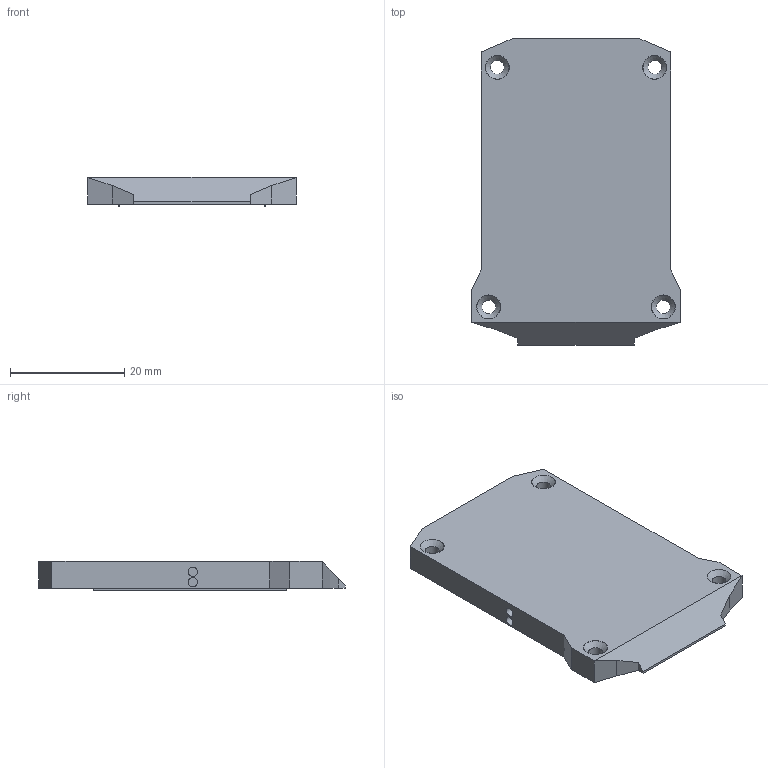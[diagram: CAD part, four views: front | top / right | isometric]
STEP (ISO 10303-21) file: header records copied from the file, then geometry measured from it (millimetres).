
FILE_DESCRIPTION(('Open CASCADE Model'),'2;1');
FILE_NAME('Open CASCADE Shape Model','2026-09-30T23:04:27',('Author'),( 'Open CASCADE'),'Open CASCADE STEP processor 8.0','Open CASCADE 8.0' ,'Unknown');
FILE_SCHEMA(('AP242_MANAGED_MODEL_BASED_3D_ENGINEERING_MIM_LF {1 0 10303 442 1 1 4 }' ));
Length unit declared in the file: millimetre
Products named in the file (1): Open CASCADE STEP translator 8.0 4
Bounding box: 36.6 x 53.7 x 5.1 mm (x, y, z)
Volume: 3768.2 mm3; surface area: 5451.5 mm2
Topology: 1 solids, 1 shells, 71 faces, 184 edges, 120 vertices
Faces by surface type: plane 57, cylinder 10, cone 4
Full cylindrical faces by diameter (mm): 1.6 x2, 2.4 x4, 4.2 x4
Entity records: 4454 total; most frequent: CARTESIAN_POINT 861, DIRECTION 606, LINE 388, VECTOR 388, ORIENTED_EDGE 368, PCURVE 368, DEFINITIONAL_REPRESENTATION 368, EDGE_CURVE 184
